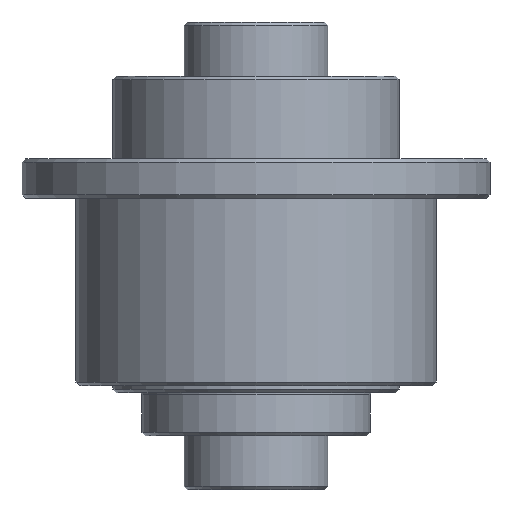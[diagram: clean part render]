
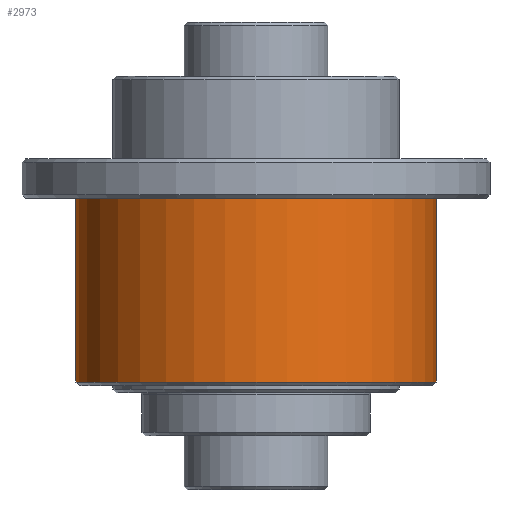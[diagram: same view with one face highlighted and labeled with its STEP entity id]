
A CAD part, front view. The second image highlights one B-rep face of the part: STEP entity #2973.
In plain terms, the highlighted cylindrical face has radius 50 mm (diameter 100 mm), a partial arc.
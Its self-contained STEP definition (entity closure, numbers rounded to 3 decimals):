
#21 = DIRECTION ( 'NONE',  ( 1., 0., 0. ) ) ;
#38 = EDGE_LOOP ( 'NONE', ( #2735, #1525, #1960, #1584 ) ) ;
#96 = CARTESIAN_POINT ( 'NONE',  ( 50., 0., -34. ) ) ;
#258 = CARTESIAN_POINT ( 'NONE',  ( 50., 0., 4. ) ) ;
#442 = VERTEX_POINT ( 'NONE', #1480 ) ;
#576 = CARTESIAN_POINT ( 'NONE',  ( 0., 0., -34. ) ) ;
#717 = DIRECTION ( 'NONE',  ( 0., 0., 1. ) ) ;
#817 = CIRCLE ( 'NONE', #1636, 50. ) ;
#846 = DIRECTION ( 'NONE',  ( 1., 0., 0. ) ) ;
#1014 = VERTEX_POINT ( 'NONE', #2626 ) ;
#1056 = AXIS2_PLACEMENT_3D ( 'NONE', #1258, #717, #3044 ) ;
#1258 = CARTESIAN_POINT ( 'NONE',  ( 0., 0., 4. ) ) ;
#1311 = FACE_OUTER_BOUND ( 'NONE', #38, .T. ) ;
#1454 = EDGE_CURVE ( 'NONE', #3328, #442, #1921, .T. ) ;
#1480 = CARTESIAN_POINT ( 'NONE',  ( -50., 0., -34. ) ) ;
#1482 = EDGE_CURVE ( 'NONE', #1014, #2814, #1752, .T. ) ;
#1525 = ORIENTED_EDGE ( 'NONE', *, *, #2584, .T. ) ;
#1584 = ORIENTED_EDGE ( 'NONE', *, *, #2715, .F. ) ;
#1588 = VECTOR ( 'NONE', #2102, 1000. ) ;
#1604 = DIRECTION ( 'NONE',  ( 0., 0., 1. ) ) ;
#1636 = AXIS2_PLACEMENT_3D ( 'NONE', #576, #2395, #846 ) ;
#1744 = AXIS2_PLACEMENT_3D ( 'NONE', #3126, #1604, #21 ) ;
#1752 = LINE ( 'NONE', #258, #1588 ) ;
#1845 = CYLINDRICAL_SURFACE ( 'NONE', #1056, 50. ) ;
#1852 = CIRCLE ( 'NONE', #1744, 50. ) ;
#1921 = LINE ( 'NONE', #3090, #3016 ) ;
#1960 = ORIENTED_EDGE ( 'NONE', *, *, #1482, .T. ) ;
#2102 = DIRECTION ( 'NONE',  ( 0., 0., 1. ) ) ;
#2395 = DIRECTION ( 'NONE',  ( 0., 0., 1. ) ) ;
#2584 = EDGE_CURVE ( 'NONE', #3328, #1014, #1852, .T. ) ;
#2590 = DIRECTION ( 'NONE',  ( 0., 0., 1. ) ) ;
#2626 = CARTESIAN_POINT ( 'NONE',  ( 50., 0., -85. ) ) ;
#2715 = EDGE_CURVE ( 'NONE', #442, #2814, #817, .T. ) ;
#2735 = ORIENTED_EDGE ( 'NONE', *, *, #1454, .F. ) ;
#2814 = VERTEX_POINT ( 'NONE', #96 ) ;
#2973 = ADVANCED_FACE ( 'NONE', ( #1311 ), #1845, .T. ) ;
#3016 = VECTOR ( 'NONE', #2590, 1000. ) ;
#3044 = DIRECTION ( 'NONE',  ( 1., 0., 0. ) ) ;
#3090 = CARTESIAN_POINT ( 'NONE',  ( -50., 0., 4. ) ) ;
#3126 = CARTESIAN_POINT ( 'NONE',  ( 0., 0., -85. ) ) ;
#3219 = CARTESIAN_POINT ( 'NONE',  ( -50., 0., -85. ) ) ;
#3328 = VERTEX_POINT ( 'NONE', #3219 ) ;
